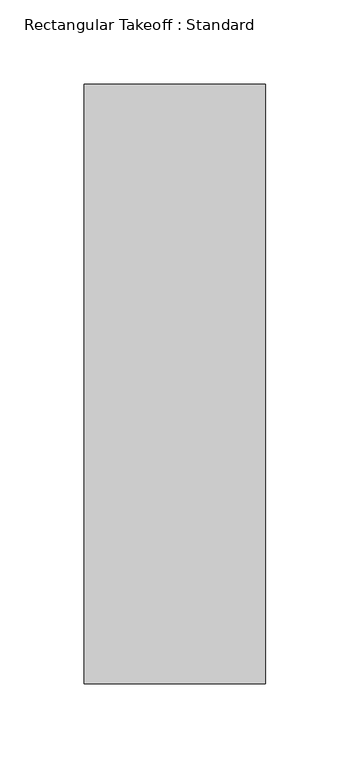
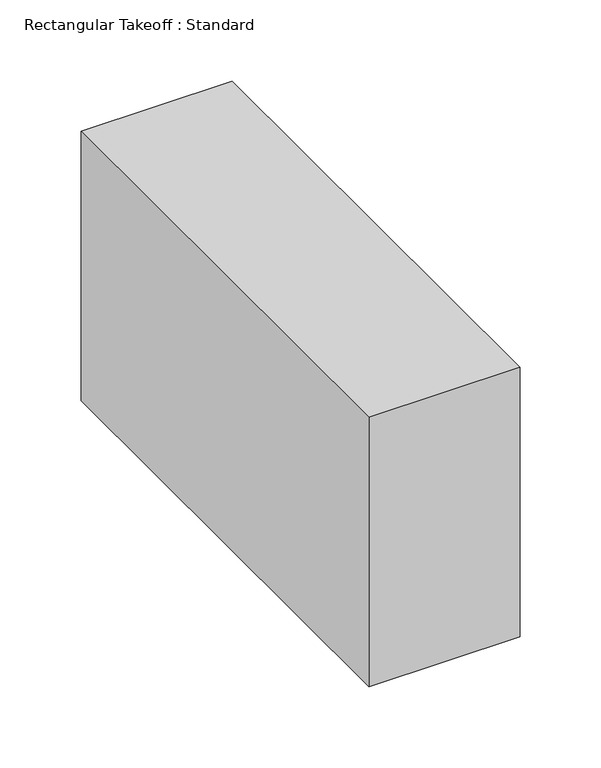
"""IFC4 building model written with IfcOpenShell, lengths in millimetres: duct fitting geometry, Rectangular Takeoff : Standard."""

import ifcopenshell
import ifcopenshell.guid

model = None  # the IFC model being written
_history = None  # IfcOwnerHistory: only IFC2X3 demands one
_inside = {}  # id of a spatial element -> (the spatial element, [elements in it])
_under = {}  # id of a project, library or spatial element -> (it, [spatial elements below it])
_declared = {}  # id of a project -> (the project, [libraries it declares])
_typed = {}  # id of a type object -> (the type object, [elements of that type])
_made_of = {}  # id of a material, layer set ... -> (it, [elements and type objects made of it])


def new_model(schema):
    """Start an empty IFC model of exactly this schema.

    Asked for "IFC4X3", IfcOpenShell would pick the latest addendum, in which some entities
    have other attributes; the version numbers below select the first issue.
    IFC2X3 requires an IfcOwnerHistory on every rooted entity: one is made here for all.
    """
    global model, _history
    if schema == "IFC4X3":
        model = ifcopenshell.file(schema_version=(4, 3, 0, 0))
    else:
        model = ifcopenshell.file(schema=schema)
    _inside.clear()
    _under.clear()
    _declared.clear()
    _typed.clear()
    _made_of.clear()
    _history = None
    if model.schema == "IFC2X3":
        org = make("IfcOrganization", Name="unknown")
        user = make(
            "IfcPersonAndOrganization",
            ThePerson=make("IfcPerson", FamilyName="unknown"),
            TheOrganization=org,
        )
        app = make(
            "IfcApplication",
            ApplicationDeveloper=org,
            Version="unknown",
            ApplicationFullName="unknown",
            ApplicationIdentifier="unknown",
        )
        _history = make(
            "IfcOwnerHistory",
            OwningUser=user,
            OwningApplication=app,
            ChangeAction="ADDED",
            CreationDate=0,
        )
    return model


def make(cls, **values):
    """One entity of the class cls with the attributes given. An attribute that is None is left unset."""
    return model.create_entity(
        cls, **{name: value for name, value in values.items() if value is not None}
    )


def rooted(cls, **values):
    """An entity with a GlobalId (a new one), such as an element, a storey or a relation."""
    return make(cls, GlobalId=ifcopenshell.guid.new(), OwnerHistory=_history, **values)


def si_unit(unit_type, name, prefix=None):
    """IfcSIUnit, for example si_unit("LENGTHUNIT", "METRE", prefix="MILLI")."""
    return make("IfcSIUnit", UnitType=unit_type, Prefix=prefix, Name=name)


def assignment(units):
    """IfcUnitAssignment: the units of a project."""
    return None if units is None else make("IfcUnitAssignment", Units=units)


def point(xyz):
    """IfcCartesianPoint."""
    return None if xyz is None else make("IfcCartesianPoint", Coordinates=xyz)


def direction(xyz):
    """IfcDirection."""
    return None if xyz is None else make("IfcDirection", DirectionRatios=xyz)


def frame(location, z_axis=None, x_axis=None):
    """IfcAxis2Placement3D, a coordinate frame: its origin and axes. An axis left out is left unset."""
    return make(
        "IfcAxis2Placement3D",
        Location=point(location),
        Axis=direction(z_axis),
        RefDirection=direction(x_axis),
    )


def origin():
    """The frame at (0, 0, 0) with its axes left unset."""
    return frame((0.0, 0.0, 0.0))


def place(relative_to, where):
    """IfcLocalPlacement: puts the frame where relative to a parent placement (None: the world)."""
    return make(
        "IfcLocalPlacement", PlacementRelTo=relative_to, RelativePlacement=where
    )


def context(
    kind, dimensions, precision=None, world=None, true_north=None, identifier=None
):
    """IfcGeometricRepresentationContext, for example the 3D "Model" context."""
    return make(
        "IfcGeometricRepresentationContext",
        ContextIdentifier=identifier,
        ContextType=kind,
        CoordinateSpaceDimension=dimensions,
        Precision=precision,
        WorldCoordinateSystem=world,
        TrueNorth=true_north,
    )


def project(units=None, contexts=None):
    """IfcProject with its units and contexts."""
    return rooted(
        "IfcProject",
        Name="project",
        RepresentationContexts=contexts,
        UnitsInContext=assignment(units),
    )


def spatial(cls, under=None, at=None, **own):
    """A site, building, storey or space (cls), placed at a placement, below another one or the project."""
    s = rooted(cls, ObjectPlacement=at, **own)
    if under is not None:
        _under.setdefault(under.id(), (under, []))[1].append(s)
    return s


def polyline(points):
    """IfcPolyline through the points."""
    return make("IfcPolyline", Points=[point(p) for p in points])


def outline(outer, holes=None, kind="AREA"):
    """IfcArbitraryClosedProfileDef: a profile drawn as a closed curve; with holes, ...WithVoids."""
    if holes is None:
        return make("IfcArbitraryClosedProfileDef", ProfileType=kind, OuterCurve=outer)
    return make(
        "IfcArbitraryProfileDefWithVoids",
        ProfileType=kind,
        OuterCurve=outer,
        InnerCurves=holes,
    )


def extrude(swept, where, along, depth):
    """IfcExtrudedAreaSolid: the profile swept, set in the frame where, extruded along a direction by depth."""
    return make(
        "IfcExtrudedAreaSolid",
        SweptArea=swept,
        Position=where,
        ExtrudedDirection=direction(along),
        Depth=depth,
    )


def shape(context_of_items, identifier, shape_type, items):
    """IfcShapeRepresentation: the items that make up one representation, for example the "Body"."""
    return make(
        "IfcShapeRepresentation",
        ContextOfItems=context_of_items,
        RepresentationIdentifier=identifier,
        RepresentationType=shape_type,
        Items=items,
    )


def source(mapping_origin, context_of_items, identifier, shape_type, items):
    """IfcRepresentationMap: a shape defined once, which mapped items show again and again."""
    return make(
        "IfcRepresentationMap",
        MappingOrigin=mapping_origin,
        MappedRepresentation=shape(context_of_items, identifier, shape_type, items),
    )


def transform(
    local_origin,
    x_axis=None,
    y_axis=None,
    z_axis=None,
    scale=None,
    scale2=None,
    scale3=None,
    uniform=True,
):
    """IfcCartesianTransformationOperator3D, or its non-uniform kind. x_axis, y_axis, z_axis: its Axis1, 2, 3."""
    if uniform:
        return make(
            "IfcCartesianTransformationOperator3D",
            Axis1=direction(x_axis),
            Axis2=direction(y_axis),
            LocalOrigin=point(local_origin),
            Scale=scale,
            Axis3=direction(z_axis),
        )
    return make(
        "IfcCartesianTransformationOperator3DnonUniform",
        Axis1=direction(x_axis),
        Axis2=direction(y_axis),
        LocalOrigin=point(local_origin),
        Scale=scale,
        Axis3=direction(z_axis),
        Scale2=scale2,
        Scale3=scale3,
    )


def mapped(mapping_source, mapping_target):
    """IfcMappedItem: shows the shape of a source again, moved by a transform."""
    return make(
        "IfcMappedItem", MappingSource=mapping_source, MappingTarget=mapping_target
    )


def made_of(thing, what):
    """Note that an element or type object is made of a material, layer set ...; save() writes the relation."""
    if what is not None:
        _made_of.setdefault(what.id(), (what, []))[1].append(thing)
    return thing


def element(
    cls,
    number,
    at=None,
    inside=None,
    cuts=None,
    type_object=None,
    material=None,
    context=None,
    identifier="Body",
    shape_type=None,
    held_by="IfcProductDefinitionShape",
    body=None,
    shapes=None,
    **own,
):
    """One element of the class cls, such as IfcWall. Its Tag is "e" and its number.

    at: its placement. inside: the storey or other place that contains it. cuts: it is an
    opening in that element (IfcRelVoidsElement). A single representation is given by context,
    identifier, shape_type and body (its items); several are given by shapes. held_by: the class
    of the entity that holds the representations. save() writes the other relations.
    """
    e = rooted(cls, Tag="e%d" % number, ObjectPlacement=at, **own)
    if body is not None:
        shapes = [shape(context, identifier, shape_type, body)]
    if shapes is not None:
        e.Representation = make(held_by, Representations=shapes)
    if inside is not None:
        _inside.setdefault(inside.id(), (inside, []))[1].append(e)
    if cuts is not None:
        rooted(
            "IfcRelVoidsElement", RelatingBuildingElement=cuts, RelatedOpeningElement=e
        )
    if type_object is not None:
        _typed.setdefault(type_object.id(), (type_object, []))[1].append(e)
    return made_of(e, material)


def aggregate(whole, parts):
    """IfcRelAggregates: a whole, such as a stair, and the parts it consists of."""
    return rooted("IfcRelAggregates", RelatingObject=whole, RelatedObjects=parts)


def save(model, path):
    """Write the relations noted so far, then the file.

    IfcRelAggregates (storeys below a building ...), IfcRelContainedInSpatialStructure (elements
    in a storey), IfcRelDefinesByType, IfcRelAssociatesMaterial and IfcRelDeclares: one each for
    every whole, place, type object, material and project.
    """
    for whole, parts in _under.values():
        aggregate(whole, parts)
    for where, things in _inside.values():
        rooted(
            "IfcRelContainedInSpatialStructure",
            RelatedElements=things,
            RelatingStructure=where,
        )
    for kind, things in _typed.values():
        rooted("IfcRelDefinesByType", RelatedObjects=things, RelatingType=kind)
    for what, things in _made_of.values():
        rooted("IfcRelAssociatesMaterial", RelatedObjects=things, RelatingMaterial=what)
    for by, libraries in _declared.values():
        rooted("IfcRelDeclares", RelatingContext=by, RelatedDefinitions=libraries)
    model.write(path)


def rectangular_takeoff_standard_806da19c(model_context):
    return source(origin(), model_context, "Body", "SweptSolid", [
        extrude(outline(polyline([(-6.096, -177.8), (-6.096, 177.8), (101.6, 177.8), (101.6, -177.8), (-6.096, -177.8)])), frame((0.0, 0.0, -101.6), z_axis=(0.0, 0.0, 1.0), x_axis=(1.0, 0.0, 0.0)), (0.0, 0.0, 1.0), 203.2),
    ])


if __name__ == "__main__":
    model = new_model("IFC4")
    model_context = context("Model", 3, world=origin())
    ifc_project = project(units=[si_unit("LENGTHUNIT", "METRE", prefix="MILLI")], contexts=[model_context])
    site = spatial("IfcSite", under=ifc_project)
    building = spatial("IfcBuilding", under=site)
    placement = place(None, origin())
    rectangular_takeoff_standard_shape = rectangular_takeoff_standard_806da19c(model_context)
    element("IfcDuctFitting", 1, ObjectType="Rectangular Takeoff : Standard", at=placement, inside=building, context=model_context, shape_type="MappedRepresentation", body=[
        mapped(rectangular_takeoff_standard_shape, transform((0.0, 0.0, 0.0), x_axis=(1.0, 0.0, 0.0), y_axis=(0.0, 1.0, 0.0), z_axis=(0.0, 0.0, 1.0))),
    ])
    save(model, "model.ifc")
